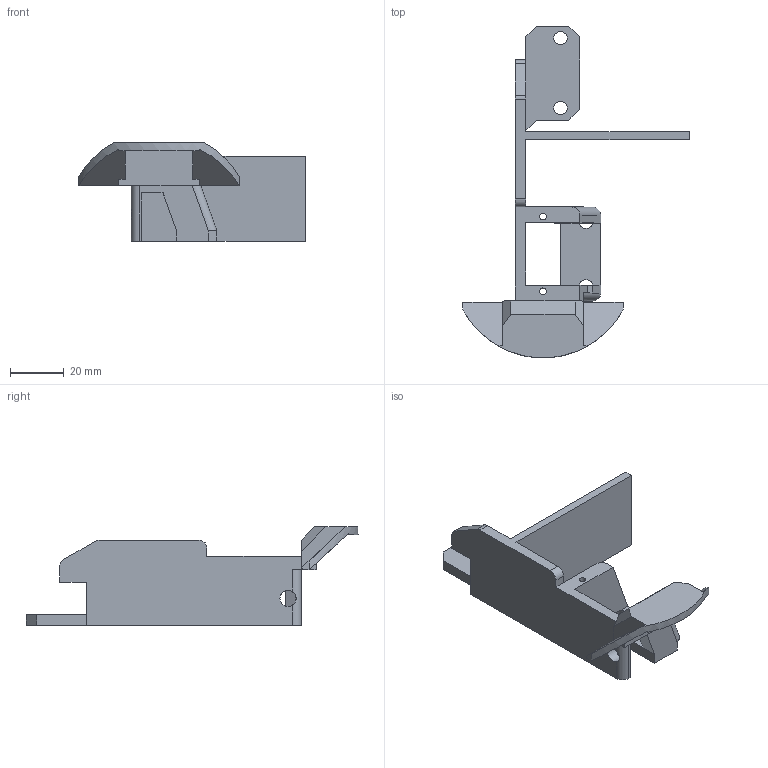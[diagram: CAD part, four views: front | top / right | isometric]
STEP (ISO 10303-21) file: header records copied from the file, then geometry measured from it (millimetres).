
FILE_DESCRIPTION(/* description */ ('STEP AP242 Edition 2','CAx-IF Rec.Pracs.---Representation and Presentation of Product Manufacturing Information (PMI)---4.0---2014-10-13','CAx-IF Rec.Pracs.---3D Tessellated Geometry---0.4---2014-09-14','2;1','CAx-IF Rec.Pracs.---User Defined Attributes---1.5---2016-08-15'),/* implementation_level */ '2;1');
FILE_NAME(/* name */ 'Part Studio 1 - Sorting Wall M',/* time_stamp */ '2026-04-09T20:19:24Z',/* author */ (''),/* organization */ (''),/* preprocessor_version */ 'ST-DEVELOPER v20',/* originating_system */ 'ONSHAPE BY PTC INC, 1.213',/* authorisation */ ' ');
FILE_SCHEMA (('AP242_MANAGED_MODEL_BASED_3D_ENGINEERING_MIM_LF { 1 0 10303 442 3 1 4 }'));
Length unit declared in the file: metre
Products named in the file (1): Sorting Wall M
Bounding box: 84.24 x 123.52 x 36.7 mm (x, y, z)
Volume: 28814.3 mm3; surface area: 18548.8 mm2
Topology: 1 solids, 1 shells, 85 faces, 250 edges, 162 vertices
Faces by surface type: plane 71, cylinder 14
Full cylindrical faces by diameter (mm): 2.5 x2, 5 x4, 6 x1
Entity records: 2769 total; most frequent: CARTESIAN_POINT 487, ORIENTED_EDGE 476, DIRECTION 448, EDGE_CURVE 238, LINE 198, VECTOR 198, VERTEX_POINT 157, AXIS2_PLACEMENT_3D 125
